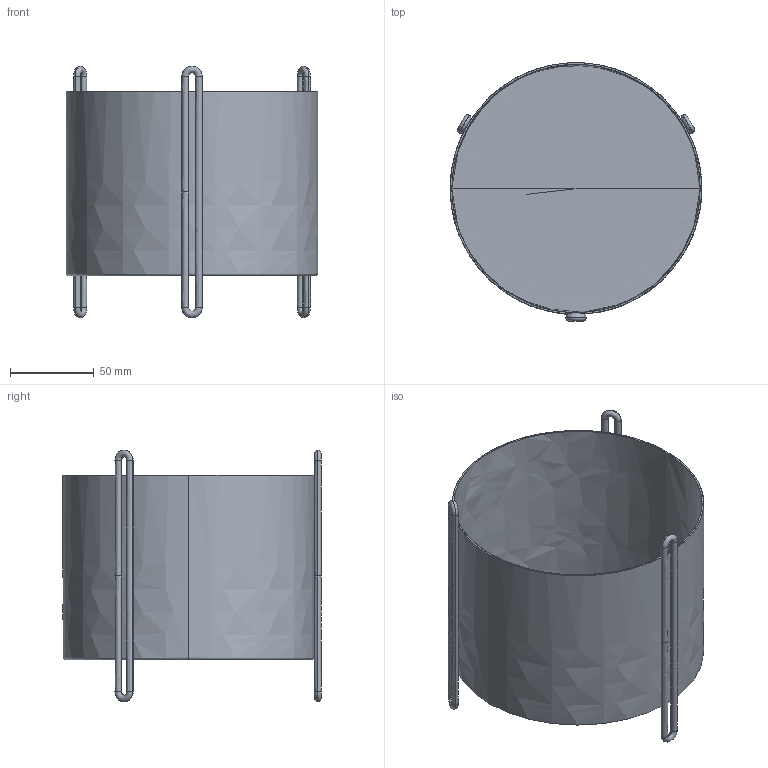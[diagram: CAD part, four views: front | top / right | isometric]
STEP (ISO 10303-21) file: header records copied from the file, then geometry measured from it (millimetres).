
FILE_DESCRIPTION(/* description */ (''),/* implementation_level */ '2;1');
FILE_NAME(/* name */ 'Pidestall flowerpot ',/* time_stamp */ '2020-04-02T09:32:42+02:00',/* author */ (''),/* organization */ (''),/* preprocessor_version */ 'ST-DEVELOPER v15',/* originating_system */ '',/* authorisation */ '');
FILE_SCHEMA (('AUTOMOTIVE_DESIGN'));
Length unit declared in the file: millimetre
Products named in the file (1): Document
Bounding box: 150 x 153.93 x 150 mm (x, y, z)
Surface area: 149342.2 mm2 (no closed solid volume)
Topology: 0 solids, 36 shells, 36 faces, 144 edges, 140 vertices
Faces by surface type: bspline 36
Entity records: 4259 total; most frequent: CARTESIAN_POINT 2750, ORIENTED_EDGE 140, PCURVE 140, DEFINITIONAL_REPRESENTATION 140, B_SPLINE_CURVE_WITH_KNOTS 140, SURFACE_CURVE 140, EDGE_CURVE 140, VERTEX_POINT 140
